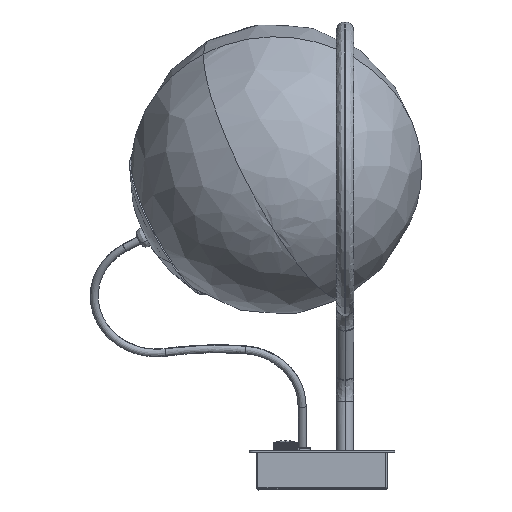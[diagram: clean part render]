
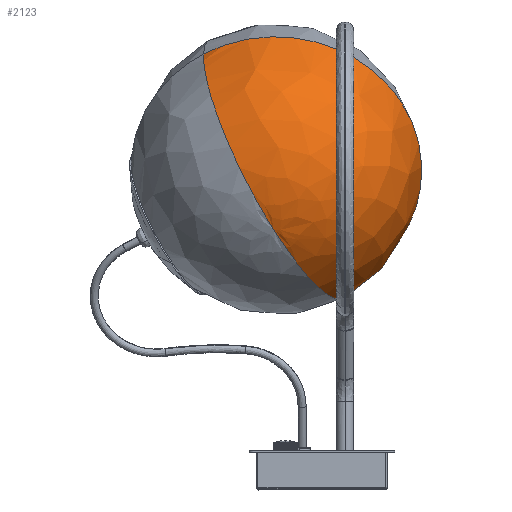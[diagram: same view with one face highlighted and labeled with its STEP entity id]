
A CAD part, left-side view. The second image highlights one B-rep face of the part: STEP entity #2123.
In plain terms, the highlighted free-form (B-spline) face has degree [2, 2] with [5, 5] control points.
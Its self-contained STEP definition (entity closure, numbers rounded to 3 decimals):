
#2123=ADVANCED_FACE('',(#2862),#12309,.T.);
#2862=FACE_OUTER_BOUND('',#3637,.T.);
#3637=EDGE_LOOP('',(#7545,#7546,#7547,#7548));
#7545=ORIENTED_EDGE('',*,*,#9502,.T.);
#7546=ORIENTED_EDGE('',*,*,#9498,.F.);
#7547=ORIENTED_EDGE('',*,*,#9511,.F.);
#7548=ORIENTED_EDGE('',*,*,#9512,.F.);
#9498=EDGE_CURVE('',#11573,#11574,#10310,.T.);
#9502=EDGE_CURVE('',#11576,#11574,#10313,.T.);
#9511=EDGE_CURVE('',#11579,#11573,#10321,.T.);
#9512=EDGE_CURVE('',#11576,#11579,#10322,.T.);
#10310=(
BOUNDED_CURVE()
B_SPLINE_CURVE(2,(#36522,#36523,#36524),.UNSPECIFIED.,.F.,.F.)
B_SPLINE_CURVE_WITH_KNOTS((3,3),(0.,157.08),.UNSPECIFIED.)
CURVE()
GEOMETRIC_REPRESENTATION_ITEM()
RATIONAL_B_SPLINE_CURVE((1.,0.707,1.))
REPRESENTATION_ITEM('')
);
#10313=(
BOUNDED_CURVE()
B_SPLINE_CURVE(2,(#36601,#36602,#36603),.UNSPECIFIED.,.F.,.F.)
B_SPLINE_CURVE_WITH_KNOTS((3,3),(0.,157.08),.UNSPECIFIED.)
CURVE()
GEOMETRIC_REPRESENTATION_ITEM()
RATIONAL_B_SPLINE_CURVE((1.,0.707,1.))
REPRESENTATION_ITEM('')
);
#10321=(
BOUNDED_CURVE()
B_SPLINE_CURVE(2,(#36697,#36698,#36699),.UNSPECIFIED.,.F.,.F.)
B_SPLINE_CURVE_WITH_KNOTS((3,3),(-157.08,0.),.UNSPECIFIED.)
CURVE()
GEOMETRIC_REPRESENTATION_ITEM()
RATIONAL_B_SPLINE_CURVE((1.,0.707,1.))
REPRESENTATION_ITEM('')
);
#10322=(
BOUNDED_CURVE()
B_SPLINE_CURVE(2,(#36700,#36701,#36702),.UNSPECIFIED.,.F.,.F.)
B_SPLINE_CURVE_WITH_KNOTS((3,3),(0.,157.08),.UNSPECIFIED.)
CURVE()
GEOMETRIC_REPRESENTATION_ITEM()
RATIONAL_B_SPLINE_CURVE((1.,0.707,1.))
REPRESENTATION_ITEM('')
);
#11573=VERTEX_POINT('',#36485);
#11574=VERTEX_POINT('',#36486);
#11576=VERTEX_POINT('',#36488);
#11579=VERTEX_POINT('',#36491);
#12309=(
BOUNDED_SURFACE()
B_SPLINE_SURFACE(2,2,((#36424,#36425,#36426,#36427,#36428),(#36429,#36430,
#36431,#36432,#36433),(#36434,#36435,#36436,#36437,#36438),(#36439,#36440,
#36441,#36442,#36443),(#36444,#36445,#36446,#36447,#36448)),
 .UNSPECIFIED.,.F.,.F.,.F.)
B_SPLINE_SURFACE_WITH_KNOTS((3,2,3),(3,2,3),(314.159,471.239,
628.319),(0.,157.08,314.159),.UNSPECIFIED.)
GEOMETRIC_REPRESENTATION_ITEM()
RATIONAL_B_SPLINE_SURFACE(((1.,0.707,1.,0.707,1.),
(0.707,0.5,0.707,0.5,0.707),(1.,0.707,
1.,0.707,1.),(0.707,0.5,0.707,0.5,0.707),
(1.,0.707,1.,0.707,1.)))
REPRESENTATION_ITEM('')
SURFACE()
);
#36424=CARTESIAN_POINT('',(-213.224,33.156,177.989));
#36425=CARTESIAN_POINT('',(-248.24,83.156,257.197));
#36426=CARTESIAN_POINT('',(-157.244,81.258,298.623));
#36427=CARTESIAN_POINT('',(-66.248,79.359,340.048));
#36428=CARTESIAN_POINT('',(-31.232,29.359,260.841));
#36429=CARTESIAN_POINT('',(-213.224,33.156,177.989));
#36430=CARTESIAN_POINT('',(-270.457,-3.425,302.03));
#36431=CARTESIAN_POINT('',(-179.461,-5.324,343.456));
#36432=CARTESIAN_POINT('',(-88.465,-7.223,384.882));
#36433=CARTESIAN_POINT('',(-31.232,29.359,260.841));
#36434=CARTESIAN_POINT('',(-213.224,33.156,177.989));
#36435=CARTESIAN_POINT('',(-235.441,-53.425,222.822));
#36436=CARTESIAN_POINT('',(-144.445,-55.324,264.248));
#36437=CARTESIAN_POINT('',(-53.449,-57.223,305.674));
#36438=CARTESIAN_POINT('',(-31.232,29.359,260.841));
#36439=CARTESIAN_POINT('',(-213.224,33.156,177.989));
#36440=CARTESIAN_POINT('',(-200.425,-103.425,143.614));
#36441=CARTESIAN_POINT('',(-109.429,-105.324,185.04));
#36442=CARTESIAN_POINT('',(-18.433,-107.223,226.466));
#36443=CARTESIAN_POINT('',(-31.232,29.359,260.841));
#36444=CARTESIAN_POINT('',(-213.224,33.156,177.989));
#36445=CARTESIAN_POINT('',(-178.209,-16.844,98.781));
#36446=CARTESIAN_POINT('',(-87.212,-18.742,140.207));
#36447=CARTESIAN_POINT('',(3.784,-20.641,181.633));
#36448=CARTESIAN_POINT('',(-31.232,29.359,260.841));
#36485=CARTESIAN_POINT('',(-144.445,-55.324,264.248));
#36486=CARTESIAN_POINT('',(-87.212,-18.742,140.207));
#36488=CARTESIAN_POINT('',(-213.224,33.156,177.989));
#36491=CARTESIAN_POINT('',(-157.244,81.258,298.623));
#36522=CARTESIAN_POINT('',(-144.445,-55.324,264.248));
#36523=CARTESIAN_POINT('',(-109.429,-105.324,185.04));
#36524=CARTESIAN_POINT('',(-87.212,-18.742,140.207));
#36601=CARTESIAN_POINT('',(-213.224,33.156,177.989));
#36602=CARTESIAN_POINT('',(-178.209,-16.844,98.781));
#36603=CARTESIAN_POINT('',(-87.212,-18.742,140.207));
#36697=CARTESIAN_POINT('',(-157.244,81.258,298.623));
#36698=CARTESIAN_POINT('',(-179.461,-5.324,343.456));
#36699=CARTESIAN_POINT('',(-144.445,-55.324,264.248));
#36700=CARTESIAN_POINT('',(-213.224,33.156,177.989));
#36701=CARTESIAN_POINT('',(-248.24,83.156,257.197));
#36702=CARTESIAN_POINT('',(-157.244,81.258,298.623));
